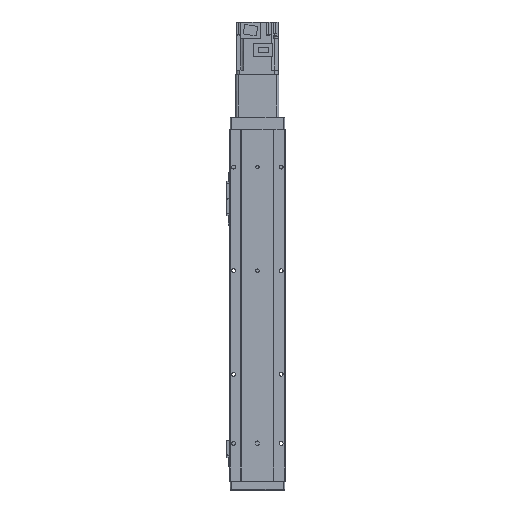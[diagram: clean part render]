
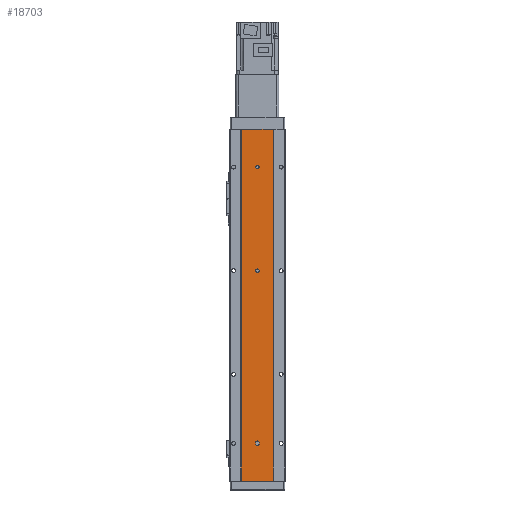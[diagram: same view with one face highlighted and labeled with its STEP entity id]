
A CAD part, front view. The second image highlights one B-rep face of the part: STEP entity #18703.
In plain terms, the highlighted planar face has unit normal (0, -1, 0).
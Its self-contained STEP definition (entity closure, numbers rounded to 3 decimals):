
#2501 = CIRCLE ( 'NONE', #9498, 2.5 ) ;
#2576 = CIRCLE ( 'NONE', #9563, 2.5 ) ;
#2584 = CIRCLE ( 'NONE', #9459, 2.5 ) ;
#2845 = LINE ( 'NONE', #14319, #2864 ) ;
#2864 = VECTOR ( 'NONE', #14334, 1000. ) ;
#3015 = LINE ( 'NONE', #13952, #3037 ) ;
#3037 = VECTOR ( 'NONE', #13954, 1000. ) ;
#3354 = CARTESIAN_POINT ( 'NONE',  ( 0., 0.5, -458. ) ) ;
#3359 = CARTESIAN_POINT ( 'NONE',  ( 2.5, 0.5, -455.5 ) ) ;
#3360 = CARTESIAN_POINT ( 'NONE',  ( 0., 0.5, -207. ) ) ;
#3380 = CARTESIAN_POINT ( 'NONE',  ( 0., 0.5, -52. ) ) ;
#3381 = CARTESIAN_POINT ( 'NONE',  ( 0., 0.5, -57. ) ) ;
#3420 = CARTESIAN_POINT ( 'NONE',  ( -2.5, 0.5, -453.5 ) ) ;
#3503 = CARTESIAN_POINT ( 'NONE',  ( 2.5, 0.5, -453.5 ) ) ;
#3527 = CARTESIAN_POINT ( 'NONE',  ( -2.5, 0.5, -455.5 ) ) ;
#3879 = VERTEX_POINT ( 'NONE', #3354 ) ;
#3882 = VERTEX_POINT ( 'NONE', #3359 ) ;
#3883 = VERTEX_POINT ( 'NONE', #3360 ) ;
#3896 = VERTEX_POINT ( 'NONE', #3380 ) ;
#3897 = VERTEX_POINT ( 'NONE', #3381 ) ;
#4901 = VERTEX_POINT ( 'NONE', #3420 ) ;
#4919 = VERTEX_POINT ( 'NONE', #3503 ) ;
#4928 = VERTEX_POINT ( 'NONE', #3527 ) ;
#6725 = EDGE_CURVE ( 'NONE', #3879, #3882, #2501, .T. ) ;
#6731 = EDGE_CURVE ( 'NONE', #41628, #3883, #2584, .T. ) ;
#6769 = EDGE_CURVE ( 'NONE', #3896, #3897, #2576, .T. ) ;
#6920 = EDGE_CURVE ( 'NONE', #41781, #41794, #2845, .T. ) ;
#7036 = EDGE_CURVE ( 'NONE', #41752, #41775, #3015, .T. ) ;
#7506 = EDGE_CURVE ( 'NONE', #4901, #4928, #23922, .T. ) ;
#7535 = EDGE_CURVE ( 'NONE', #4928, #3879, #23984, .T. ) ;
#7562 = EDGE_CURVE ( 'NONE', #3883, #41628, #24066, .T. ) ;
#7570 = EDGE_CURVE ( 'NONE', #4919, #4901, #24052, .T. ) ;
#7588 = EDGE_CURVE ( 'NONE', #3897, #3896, #24101, .T. ) ;
#7599 = EDGE_CURVE ( 'NONE', #3882, #4919, #24120, .T. ) ;
#7604 = EDGE_CURVE ( 'NONE', #41775, #41794, #24094, .T. ) ;
#7615 = EDGE_CURVE ( 'NONE', #41752, #41781, #24112, .T. ) ;
#9459 = AXIS2_PLACEMENT_3D ( 'NONE', #13740, #13757, #13750 ) ;
#9498 = AXIS2_PLACEMENT_3D ( 'NONE', #13747, #13744, #13724 ) ;
#9563 = AXIS2_PLACEMENT_3D ( 'NONE', #13929, #13938, #13920 ) ;
#9843 = AXIS2_PLACEMENT_3D ( 'NONE', #25155, #25152, #25127 ) ;
#9852 = AXIS2_PLACEMENT_3D ( 'NONE', #25111, #25094, #25089 ) ;
#9867 = AXIS2_PLACEMENT_3D ( 'NONE', #25034, #25024, #25018 ) ;
#9873 = AXIS2_PLACEMENT_3D ( 'NONE', #25049, #25112, #25114 ) ;
#13724 = DIRECTION ( 'NONE',  ( 1., 0., 0. ) ) ;
#13740 = CARTESIAN_POINT ( 'NONE',  ( 0., 0.5, -204.5 ) ) ;
#13744 = DIRECTION ( 'NONE',  ( 0., -1., 0. ) ) ;
#13747 = CARTESIAN_POINT ( 'NONE',  ( 0., 0.5, -455.5 ) ) ;
#13750 = DIRECTION ( 'NONE',  ( 1., 0., 0. ) ) ;
#13757 = DIRECTION ( 'NONE',  ( 0., -1., 0. ) ) ;
#13920 = DIRECTION ( 'NONE',  ( 1., 0., 0. ) ) ;
#13929 = CARTESIAN_POINT ( 'NONE',  ( 0., 0.5, -54.5 ) ) ;
#13938 = DIRECTION ( 'NONE',  ( 0., -1., 0. ) ) ;
#13952 = CARTESIAN_POINT ( 'NONE',  ( -23., 0.5, -509. ) ) ;
#13954 = DIRECTION ( 'NONE',  ( 1., 0., 0. ) ) ;
#14319 = CARTESIAN_POINT ( 'NONE',  ( -23., 0.5, 0. ) ) ;
#14334 = DIRECTION ( 'NONE',  ( 1., 0., 0. ) ) ;
#18005 = ORIENTED_EDGE ( 'NONE', *, *, #7562, .F. ) ;
#18034 = ORIENTED_EDGE ( 'NONE', *, *, #7535, .F. ) ;
#18035 = ORIENTED_EDGE ( 'NONE', *, *, #7570, .F. ) ;
#18043 = ORIENTED_EDGE ( 'NONE', *, *, #7506, .F. ) ;
#18048 = ORIENTED_EDGE ( 'NONE', *, *, #7588, .F. ) ;
#18063 = ORIENTED_EDGE ( 'NONE', *, *, #6725, .F. ) ;
#18064 = ORIENTED_EDGE ( 'NONE', *, *, #7615, .F. ) ;
#18083 = ORIENTED_EDGE ( 'NONE', *, *, #6731, .F. ) ;
#18086 = ORIENTED_EDGE ( 'NONE', *, *, #6769, .F. ) ;
#18107 = ORIENTED_EDGE ( 'NONE', *, *, #6920, .F. ) ;
#18108 = ORIENTED_EDGE ( 'NONE', *, *, #7599, .F. ) ;
#18165 = ORIENTED_EDGE ( 'NONE', *, *, #7036, .T. ) ;
#18168 = ORIENTED_EDGE ( 'NONE', *, *, #7604, .T. ) ;
#18703 = ADVANCED_FACE ( 'NONE', ( #42953, #42992, #42954, #42969 ), #28639, .T. ) ;
#19787 = EDGE_LOOP ( 'NONE', ( #18048, #18086 ) ) ;
#19807 = EDGE_LOOP ( 'NONE', ( #18034, #18043, #18035, #18108, #18063 ) ) ;
#19816 = EDGE_LOOP ( 'NONE', ( #18005, #18083 ) ) ;
#19818 = EDGE_LOOP ( 'NONE', ( #18107, #18064, #18165, #18168 ) ) ;
#21657 = DIRECTION ( 'NONE',  ( 1., 0., 0. ) ) ;
#23922 = LINE ( 'NONE', #24928, #23936 ) ;
#23936 = VECTOR ( 'NONE', #24940, 1000. ) ;
#23984 = CIRCLE ( 'NONE', #9867, 2.5 ) ;
#24052 = CIRCLE ( 'NONE', #9852, 2.5 ) ;
#24066 = CIRCLE ( 'NONE', #9873, 2.5 ) ;
#24085 = VECTOR ( 'NONE', #25182, 1000. ) ;
#24094 = LINE ( 'NONE', #25187, #24122 ) ;
#24101 = CIRCLE ( 'NONE', #9843, 2.5 ) ;
#24109 = VECTOR ( 'NONE', #25194, 1000. ) ;
#24112 = LINE ( 'NONE', #25180, #24109 ) ;
#24120 = LINE ( 'NONE', #25135, #24085 ) ;
#24122 = VECTOR ( 'NONE', #25185, 1000. ) ;
#24928 = CARTESIAN_POINT ( 'NONE',  ( -2.5, 0.5, -509. ) ) ;
#24940 = DIRECTION ( 'NONE',  ( 0., 0., -1. ) ) ;
#25018 = DIRECTION ( 'NONE',  ( 1., 0., 0. ) ) ;
#25024 = DIRECTION ( 'NONE',  ( 0., -1., 0. ) ) ;
#25034 = CARTESIAN_POINT ( 'NONE',  ( 0., 0.5, -455.5 ) ) ;
#25049 = CARTESIAN_POINT ( 'NONE',  ( 0., 0.5, -204.5 ) ) ;
#25089 = DIRECTION ( 'NONE',  ( 1., 0., 0. ) ) ;
#25094 = DIRECTION ( 'NONE',  ( 0., -1., 0. ) ) ;
#25111 = CARTESIAN_POINT ( 'NONE',  ( 0., 0.5, -453.5 ) ) ;
#25112 = DIRECTION ( 'NONE',  ( 0., -1., 0. ) ) ;
#25114 = DIRECTION ( 'NONE',  ( 1., 0., 0. ) ) ;
#25127 = DIRECTION ( 'NONE',  ( 1., 0., 0. ) ) ;
#25135 = CARTESIAN_POINT ( 'NONE',  ( 2.5, 0.5, -509. ) ) ;
#25152 = DIRECTION ( 'NONE',  ( 0., -1., 0. ) ) ;
#25155 = CARTESIAN_POINT ( 'NONE',  ( 0., 0.5, -54.5 ) ) ;
#25180 = CARTESIAN_POINT ( 'NONE',  ( -23., 0.5, -509. ) ) ;
#25182 = DIRECTION ( 'NONE',  ( 0., 0., 1. ) ) ;
#25185 = DIRECTION ( 'NONE',  ( 0., 0., 1. ) ) ;
#25187 = CARTESIAN_POINT ( 'NONE',  ( 23., 0.5, -509. ) ) ;
#25194 = DIRECTION ( 'NONE',  ( 0., 0., 1. ) ) ;
#26953 = DIRECTION ( 'NONE',  ( 0., -1., 0. ) ) ;
#28535 = CARTESIAN_POINT ( 'NONE',  ( -23., 0.5, -509. ) ) ;
#28639 = PLANE ( 'NONE',  #29726 ) ;
#29726 = AXIS2_PLACEMENT_3D ( 'NONE', #28535, #26953, #21657 ) ;
#37089 = CARTESIAN_POINT ( 'NONE',  ( 0., 0.5, -202. ) ) ;
#37203 = CARTESIAN_POINT ( 'NONE',  ( -23., 0.5, -509. ) ) ;
#37210 = CARTESIAN_POINT ( 'NONE',  ( 23., 0.5, 0. ) ) ;
#37221 = CARTESIAN_POINT ( 'NONE',  ( 23., 0.5, -509. ) ) ;
#37228 = CARTESIAN_POINT ( 'NONE',  ( -23., 0.5, 0. ) ) ;
#41628 = VERTEX_POINT ( 'NONE', #37089 ) ;
#41752 = VERTEX_POINT ( 'NONE', #37203 ) ;
#41775 = VERTEX_POINT ( 'NONE', #37221 ) ;
#41781 = VERTEX_POINT ( 'NONE', #37228 ) ;
#41794 = VERTEX_POINT ( 'NONE', #37210 ) ;
#42953 = FACE_BOUND ( 'NONE', #19807, .T. ) ;
#42954 = FACE_BOUND ( 'NONE', #19787, .T. ) ;
#42969 = FACE_OUTER_BOUND ( 'NONE', #19818, .T. ) ;
#42992 = FACE_BOUND ( 'NONE', #19816, .T. ) ;
